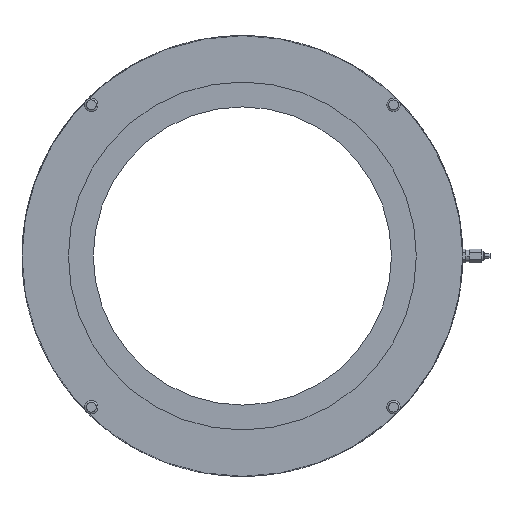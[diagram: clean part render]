
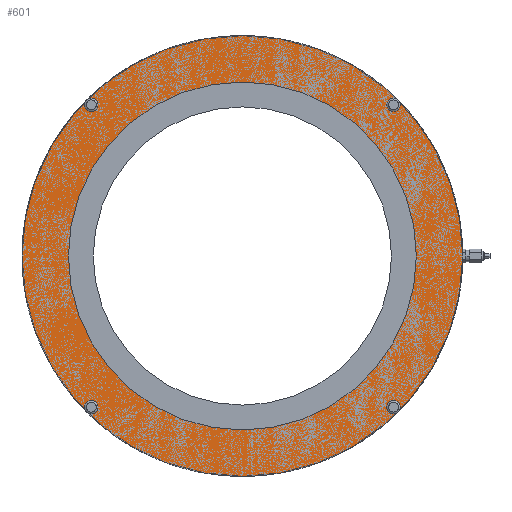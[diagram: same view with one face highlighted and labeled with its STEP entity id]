
A CAD part, left-side view. The second image highlights one B-rep face of the part: STEP entity #601.
In plain terms, the highlighted planar face has unit normal (-1, 0, 0).
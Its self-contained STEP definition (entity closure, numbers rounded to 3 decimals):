
#601 = ADVANCED_FACE( '', ( #1594, #1595 ), #1596, .T. );
#1594 = FACE_BOUND( '', #2617, .T. );
#1595 = FACE_OUTER_BOUND( '', #2618, .T. );
#1596 = PLANE( '', #2619 );
#2617 = EDGE_LOOP( '', ( #6870, #6871 ) );
#2618 = EDGE_LOOP( '', ( #6872, #6873 ) );
#2619 = AXIS2_PLACEMENT_3D( '', #6874, #6875, #6876 );
#6870 = ORIENTED_EDGE( '', *, *, #8457, .F. );
#6871 = ORIENTED_EDGE( '', *, *, #7077, .F. );
#6872 = ORIENTED_EDGE( '', *, *, #7284, .T. );
#6873 = ORIENTED_EDGE( '', *, *, #8456, .T. );
#6874 = CARTESIAN_POINT( '', ( -13., 119., 0. ) );
#6875 = DIRECTION( '', ( -1., 0., 0. ) );
#6876 = DIRECTION( '', ( 0., 1., 0. ) );
#7077 = EDGE_CURVE( '', #8519, #8515, #8521, .T. );
#7284 = EDGE_CURVE( '', #8523, #8933, #8935, .T. );
#8456 = EDGE_CURVE( '', #8933, #8523, #10809, .T. );
#8457 = EDGE_CURVE( '', #8515, #8519, #10810, .T. );
#8515 = VERTEX_POINT( '', #10900 );
#8519 = VERTEX_POINT( '', #10905 );
#8521 = CIRCLE( '', #10908, 105. );
#8523 = VERTEX_POINT( '', #10910 );
#8933 = VERTEX_POINT( '', #11440 );
#8935 = CIRCLE( '', #11443, 133. );
#10809 = CIRCLE( '', #14394, 133. );
#10810 = CIRCLE( '', #14395, 105. );
#10900 = CARTESIAN_POINT( '', ( -13., 105., 0. ) );
#10905 = CARTESIAN_POINT( '', ( -13., -105., 0. ) );
#10908 = AXIS2_PLACEMENT_3D( '', #14509, #14510, #14511 );
#10910 = CARTESIAN_POINT( '', ( -13., 133., 0. ) );
#11440 = CARTESIAN_POINT( '', ( -13., -133., 0. ) );
#11443 = AXIS2_PLACEMENT_3D( '', #14918, #14919, #14920 );
#14394 = AXIS2_PLACEMENT_3D( '', #16431, #16432, #16433 );
#14395 = AXIS2_PLACEMENT_3D( '', #16434, #16435, #16436 );
#14509 = CARTESIAN_POINT( '', ( -13., 0., 0. ) );
#14510 = DIRECTION( '', ( -1., 0., 0. ) );
#14511 = DIRECTION( '', ( 0., 1., 0. ) );
#14918 = CARTESIAN_POINT( '', ( -13., 0., 0. ) );
#14919 = DIRECTION( '', ( -1., 0., 0. ) );
#14920 = DIRECTION( '', ( 0., 1., 0. ) );
#16431 = CARTESIAN_POINT( '', ( -13., 0., 0. ) );
#16432 = DIRECTION( '', ( -1., 0., 0. ) );
#16433 = DIRECTION( '', ( 0., 1., 0. ) );
#16434 = CARTESIAN_POINT( '', ( -13., 0., 0. ) );
#16435 = DIRECTION( '', ( -1., 0., 0. ) );
#16436 = DIRECTION( '', ( 0., 1., 0. ) );
